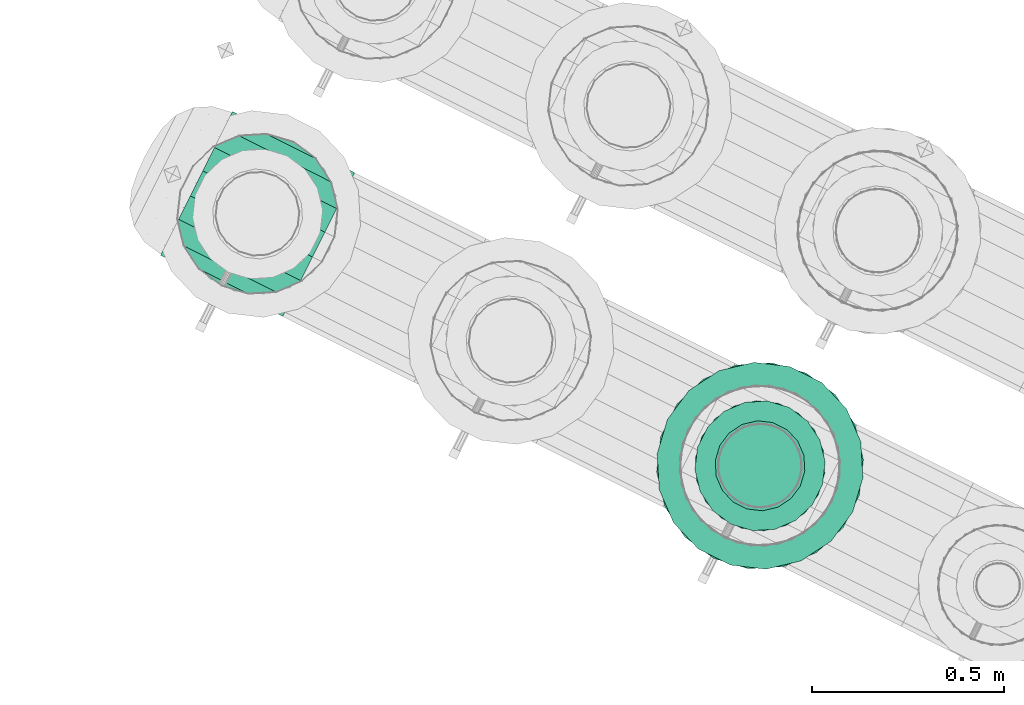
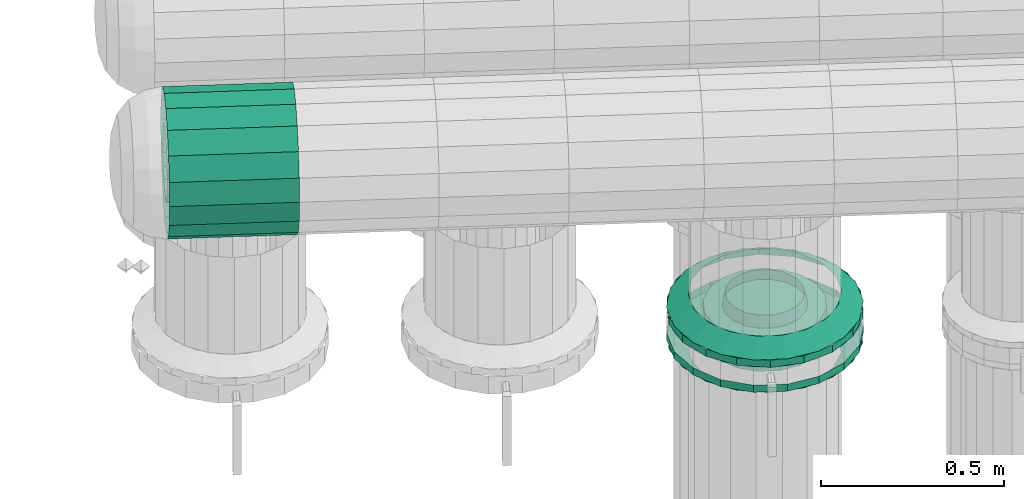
# One storey, part 86 of 152: 3 flow fittings.
"""IFC2X3 building model written with IfcOpenShell, lengths in metres."""

from ifc_helpers import new_model, si_unit, derived_unit, direction, frame, origin, place, context, subcontext, project, spatial, face_set, surface_model, source, transform, mapped, material, type_object, type_shapes, element, save


model = new_model("IFC2X3")

# Units and contexts
model_context = context("Model", 3, precision=5.2338327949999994e-05, world=origin(), true_north=direction((0.0, 1.0)))
body_context = subcontext(model_context, "Body", "Model", "MODEL_VIEW")
ifc_project = project(units=[si_unit("LENGTHUNIT", "METRE"), si_unit("AREAUNIT", "SQUARE_METRE"), si_unit("VOLUMEUNIT", "CUBIC_METRE"), si_unit("MASSUNIT", "GRAM", prefix="KILO"), si_unit("PLANEANGLEUNIT", "RADIAN"), derived_unit("THERMALTRANSMITTANCEUNIT", [(si_unit("MASSUNIT", "GRAM", prefix="KILO"), 1), (si_unit("THERMODYNAMICTEMPERATUREUNIT", "KELVIN"), -1), (si_unit("TIMEUNIT", "SECOND"), -3)])], contexts=[model_context])

# Site, building, storey
site_placement = place(None, frame((0.0, 0.0, 0.0), z_axis=(0.0, 0.0, 1.0), x_axis=(0.8939966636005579, -0.4480736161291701, 0.0)))
site = spatial("IfcSite", under=ifc_project, at=site_placement, Name="Default", CompositionType="ELEMENT")
building_placement = place(site_placement, origin())
building = spatial("IfcBuilding", under=site, at=building_placement, CompositionType="ELEMENT")
storey_placement = place(building_placement, frame((0.0, 0.0, 2.7499999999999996)))
storey = spatial("IfcBuildingStorey", under=building, at=storey_placement, Name="1. Obergeschoss", CompositionType="ELEMENT", Elevation=2.7499999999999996)

# Flow fittings
ifc_material = material(Name="IfcSurfaceStyle #9317")
distribution_element_type_1 = type_object("IfcDistributionElementType", Name="Abzweigstück 226356:Abzweigstück 226356", material=ifc_material)
shared_shape_1 = source(origin(), body_context, "Body", "SurfaceModel", [
    surface_model("IfcFaceBasedSurfaceModel", [(5.300766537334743, 7.217658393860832, 5.553028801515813), (5.300766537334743, 7.224265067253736, 5.59049710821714), (4.9447665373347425, 7.224265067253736, 5.59049710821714), (4.9447665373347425, 7.217658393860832, 5.553028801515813), (5.300766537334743, 7.243288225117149, 5.623446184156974), (4.9447665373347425, 7.243288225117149, 5.623446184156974), (5.300766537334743, 7.272433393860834, 5.6479018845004), (4.9447665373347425, 7.272433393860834, 5.6479018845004), (5.300766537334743, 7.308185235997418, 5.660914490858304), (4.9447665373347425, 7.308185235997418, 5.660914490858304), (5.300766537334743, 7.346231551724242, 5.660914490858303), (4.9447665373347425, 7.346231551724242, 5.660914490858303), (5.300766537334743, 7.381983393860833, 5.647901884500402), (4.9447665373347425, 7.381983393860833, 5.647901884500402), (5.300766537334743, 7.411128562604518, 5.623446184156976), (4.9447665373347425, 7.411128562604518, 5.623446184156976), (5.300766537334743, 7.430151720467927, 5.590497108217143), (4.9447665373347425, 7.430151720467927, 5.590497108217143), (5.300766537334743, 7.436758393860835, 5.553028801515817), (4.9447665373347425, 7.436758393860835, 5.553028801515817), (5.300766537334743, 7.4301517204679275, 5.51556049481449), (4.9447665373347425, 7.4301517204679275, 5.51556049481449), (5.300766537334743, 7.411128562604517, 5.482611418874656), (4.9447665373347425, 7.411128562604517, 5.482611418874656), (5.300766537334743, 7.381983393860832, 5.458155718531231), (4.9447665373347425, 7.381983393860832, 5.458155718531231), (5.300766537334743, 7.3462315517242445, 5.445143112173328), (4.9447665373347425, 7.3462315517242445, 5.445143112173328), (5.300766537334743, 7.308185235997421, 5.445143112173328), (4.9447665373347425, 7.308185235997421, 5.445143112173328), (5.300766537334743, 7.272433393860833, 5.45815571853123), (4.9447665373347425, 7.272433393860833, 5.45815571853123), (5.300766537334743, 7.243288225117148, 5.4826114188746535), (4.9447665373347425, 7.243288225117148, 5.4826114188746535), (5.300766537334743, 7.224265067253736, 5.515560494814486), (4.9447665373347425, 7.224265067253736, 5.515560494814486), (5.300766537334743, 7.117658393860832, 5.553028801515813), (5.300766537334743, 7.130295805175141, 5.624699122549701), (4.9447665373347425, 7.130295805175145, 5.624699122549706), (4.9447665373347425, 7.117658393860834, 5.553028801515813), (5.300766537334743, 7.166683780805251, 5.687724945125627), (4.9447665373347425, 7.166683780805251, 5.687724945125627), (5.300766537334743, 7.222433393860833, 5.734504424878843), (4.9447665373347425, 7.222433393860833, 5.734504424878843), (5.300766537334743, 7.290820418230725, 5.759395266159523), (4.9447665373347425, 7.290820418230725, 5.759395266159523), (5.300766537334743, 7.363596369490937, 5.759395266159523), (4.9447665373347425, 7.363596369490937, 5.759395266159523), (5.300766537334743, 7.43198339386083, 5.734504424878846), (4.9447665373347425, 7.43198339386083, 5.734504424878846), (5.300766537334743, 7.487733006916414, 5.687724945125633), (4.9447665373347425, 7.487733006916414, 5.687724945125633), (5.300766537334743, 7.52412098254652, 5.6246991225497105), (4.9447665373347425, 7.52412098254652, 5.6246991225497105), (5.300766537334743, 7.536758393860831, 5.553028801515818), (4.9447665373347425, 7.536758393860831, 5.553028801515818), (5.300766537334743, 7.5241209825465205, 5.481358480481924), (4.9447665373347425, 7.5241209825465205, 5.481358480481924), (5.300766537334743, 7.487733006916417, 5.418332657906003), (4.9447665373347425, 7.487733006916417, 5.418332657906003), (5.300766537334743, 7.431983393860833, 5.371553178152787), (4.9447665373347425, 7.431983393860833, 5.371553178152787), (5.300766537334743, 7.36359636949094, 5.3466623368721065), (4.9447665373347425, 7.36359636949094, 5.3466623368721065), (5.300766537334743, 7.29082041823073, 5.3466623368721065), (4.9447665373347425, 7.29082041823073, 5.3466623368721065), (5.300766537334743, 7.222433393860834, 5.3715531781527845), (4.9447665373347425, 7.222433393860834, 5.3715531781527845), (5.300766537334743, 7.166683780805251, 5.418332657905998), (4.9447665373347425, 7.166683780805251, 5.418332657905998), (5.300766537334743, 7.130295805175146, 5.481358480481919), (4.9447665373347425, 7.130295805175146, 5.481358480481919), (5.013216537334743, 7.327208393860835, 5.443478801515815), (5.019823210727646, 7.3646767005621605, 5.45008547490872), (5.019823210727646, 7.3646767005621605, 5.375028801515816), (5.013216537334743, 7.327208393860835, 5.375028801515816), (5.038846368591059, 7.397625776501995, 5.469108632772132), (5.038846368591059, 7.397625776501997, 5.375028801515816), (5.067991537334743, 7.422081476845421, 5.498253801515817), (5.067991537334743, 7.422081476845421, 5.375028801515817), (5.103743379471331, 7.435094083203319, 5.534005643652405), (5.103743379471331, 7.435094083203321, 5.375028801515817), (5.141789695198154, 7.435094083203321, 5.534005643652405), (5.141789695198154, 7.435094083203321, 5.375028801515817), (5.177541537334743, 7.422081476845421, 5.498253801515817), (5.177541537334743, 7.422081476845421, 5.375028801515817), (5.206686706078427, 7.397625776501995, 5.469108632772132), (5.206686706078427, 7.397625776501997, 5.375028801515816), (5.22570986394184, 7.3646767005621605, 5.45008547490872), (5.22570986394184, 7.3646767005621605, 5.375028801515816), (5.232316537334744, 7.327208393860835, 5.443478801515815), (5.232316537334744, 7.327208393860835, 5.375028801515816), (5.22570986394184, 7.289740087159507, 5.450085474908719), (5.22570986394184, 7.289740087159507, 5.375028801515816), (5.206686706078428, 7.256791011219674, 5.46910863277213), (5.206686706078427, 7.2567910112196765, 5.375028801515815), (5.177541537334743, 7.232335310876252, 5.498253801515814), (5.177541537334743, 7.232335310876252, 5.375028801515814), (5.141789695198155, 7.219322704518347, 5.534005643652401), (5.141789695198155, 7.219322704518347, 5.375028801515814), (5.103743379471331, 7.219322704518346, 5.534005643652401), (5.103743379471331, 7.219322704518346, 5.375028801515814), (5.067991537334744, 7.232335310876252, 5.498253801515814), (5.067991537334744, 7.232335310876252, 5.375028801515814), (5.038846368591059, 7.256791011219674, 5.46910863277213), (5.038846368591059, 7.256791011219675, 5.375028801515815), (5.019823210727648, 7.289740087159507, 5.450085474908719), (5.019823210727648, 7.289740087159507, 5.375028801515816)], [face_set([[[0, 1, 2, 3]], [[1, 4, 5, 2]], [[4, 6, 7, 5]], [[6, 8, 9, 7]], [[8, 10, 11, 9]], [[10, 12, 13, 11]], [[12, 14, 15, 13]], [[14, 16, 17, 15]], [[16, 18, 19, 17]], [[18, 20, 21, 19]], [[20, 22, 23, 21]], [[22, 24, 25, 23]], [[24, 26, 27, 25]], [[26, 28, 29, 27]], [[28, 30, 31, 29]], [[30, 32, 33, 31]], [[32, 34, 35, 33]], [[34, 0, 3, 35]], [[36, 37, 38, 39]], [[37, 40, 41, 38]], [[40, 42, 43, 41]], [[42, 44, 45, 43]], [[44, 46, 47, 45]], [[46, 48, 49, 47]], [[48, 50, 51, 49]], [[50, 52, 53, 51]], [[52, 54, 55, 53]], [[54, 56, 57, 55]], [[56, 58, 59, 57]], [[58, 60, 61, 59]], [[60, 62, 63, 61]], [[62, 64, 65, 63]], [[64, 66, 67, 65]], [[66, 68, 69, 67]], [[68, 70, 71, 69]], [[70, 36, 39, 71]], [[72, 73, 74, 75]], [[73, 76, 77, 74]], [[76, 78, 79, 77]], [[78, 80, 81, 79]], [[80, 82, 83, 81]], [[82, 84, 85, 83]], [[84, 86, 87, 85]], [[86, 88, 89, 87]], [[88, 90, 91, 89]], [[90, 92, 93, 91]], [[92, 94, 95, 93]], [[94, 96, 97, 95]], [[96, 98, 99, 97]], [[98, 100, 101, 99]], [[100, 102, 103, 101]], [[102, 104, 105, 103]], [[104, 106, 107, 105]], [[106, 72, 75, 107]]])]),
])
type_shapes(distribution_element_type_1, [shared_shape_1])
flow_fitting_1_placement = place(storey_placement, frame((0.0, 0.0, -2.7499999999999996)))
element("IfcFlowFitting", 1, at=flow_fitting_1_placement, inside=storey, type_object=distribution_element_type_1, material=ifc_material, Name="Abzweigstück", ObjectType="Abzweigstück", context=body_context, shape_type="MappedRepresentation", body=[
    mapped(shared_shape_1, transform((0.0, 0.0, 0.0), scale=1.0)),
])
distribution_element_type_2 = type_object("IfcDistributionElementType", Name="Flansch 245416:Flansch 245416", material=ifc_material)
shared_shape_2 = source(origin(), body_context, "Body", "SurfaceModel", [
    surface_model("IfcFaceBasedSurfaceModel", [(6.47826440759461, 7.327208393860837, 5.052622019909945), (6.484871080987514, 7.3646767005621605, 5.052622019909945), (6.477400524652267, 7.3673957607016, 5.0146220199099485), (6.470314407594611, 7.3272083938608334, 5.0146220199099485), (6.5038942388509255, 7.3976257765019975, 5.052622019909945), (6.497804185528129, 7.402735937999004, 5.0146220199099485), (6.533039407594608, 7.422081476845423, 5.052622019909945), (6.5290644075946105, 7.428966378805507, 5.014622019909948), (6.568791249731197, 7.435094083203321, 5.052622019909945), (6.567410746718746, 7.442923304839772, 5.014622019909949), (6.6068375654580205, 7.435094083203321, 5.05262201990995), (6.608218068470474, 7.442923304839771, 5.0146220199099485), (6.642589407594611, 7.422081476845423, 5.052622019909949), (6.64656440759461, 7.428966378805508, 5.014622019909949), (6.6717345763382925, 7.397625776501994, 5.052622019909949), (6.677824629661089, 7.402735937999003, 5.014622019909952), (6.690757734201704, 7.3646767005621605, 5.05262201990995), (6.698228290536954, 7.367395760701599, 5.014622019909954), (6.697364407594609, 7.327208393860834, 5.052622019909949), (6.70531440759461, 7.3272083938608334, 5.014622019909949), (6.690757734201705, 7.289740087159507, 5.0526220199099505), (6.698228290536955, 7.287021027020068, 5.014622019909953), (6.671734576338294, 7.256791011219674, 5.0526220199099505), (6.67782462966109, 7.251680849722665, 5.014622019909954), (6.642589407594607, 7.232335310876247, 5.052622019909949), (6.646564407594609, 7.225450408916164, 5.0146220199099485), (6.60683756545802, 7.219322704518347, 5.052622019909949), (6.608218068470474, 7.211493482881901, 5.014622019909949), (6.568791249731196, 7.219322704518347, 5.052622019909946), (6.567410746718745, 7.211493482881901, 5.014622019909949), (6.533039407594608, 7.232335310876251, 5.052622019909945), (6.529064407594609, 7.225450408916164, 5.0146220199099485), (6.503894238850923, 7.256791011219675, 5.052622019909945), (6.497804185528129, 7.251680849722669, 5.014622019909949), (6.484871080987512, 7.28974008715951, 5.052622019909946), (6.477400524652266, 7.28702102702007, 5.0146220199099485), (6.587814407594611, 7.497208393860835, 5.0146220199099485), (6.645957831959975, 7.4869561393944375, 5.01462201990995), (6.645957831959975, 7.486956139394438, 4.990622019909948), (6.587814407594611, 7.497208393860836, 4.990622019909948), (6.697088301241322, 7.45743594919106, 5.01462201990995), (6.6970883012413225, 7.45743594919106, 4.990622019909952), (6.735038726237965, 7.412208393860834, 5.014622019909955), (6.735038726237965, 7.4122083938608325, 4.990622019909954), (6.755231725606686, 7.356728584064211, 5.014622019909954), (6.755231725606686, 7.356728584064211, 4.990622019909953), (6.755231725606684, 7.297688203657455, 5.014622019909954), (6.755231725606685, 7.297688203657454, 4.990622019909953), (6.735038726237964, 7.242208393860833, 5.014622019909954), (6.735038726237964, 7.242208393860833, 4.990622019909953), (6.697088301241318, 7.196980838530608, 5.014622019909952), (6.697088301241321, 7.196980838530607, 4.990622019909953), (6.645957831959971, 7.1674606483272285, 5.01462201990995), (6.645957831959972, 7.1674606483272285, 4.990622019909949), (6.5878144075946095, 7.157208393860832, 5.0146220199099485), (6.5878144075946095, 7.157208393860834, 4.990622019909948), (6.529670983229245, 7.1674606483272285, 5.0146220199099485), (6.529670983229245, 7.1674606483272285, 4.990622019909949), (6.478540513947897, 7.19698083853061, 5.0146220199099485), (6.478540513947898, 7.196980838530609, 4.9906220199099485), (6.4405900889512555, 7.242208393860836, 5.0146220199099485), (6.4405900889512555, 7.242208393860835, 4.990622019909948), (6.420397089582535, 7.297688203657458, 5.014622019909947), (6.420397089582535, 7.297688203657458, 4.990622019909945), (6.420397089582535, 7.356728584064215, 5.014622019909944), (6.420397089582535, 7.356728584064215, 4.990622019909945), (6.440590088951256, 7.412208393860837, 5.0146220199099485), (6.4405900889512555, 7.412208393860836, 4.990622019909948), (6.478540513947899, 7.457435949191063, 5.0146220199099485), (6.478540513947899, 7.457435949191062, 4.990622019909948), (6.529670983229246, 7.486956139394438, 5.0146220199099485), (6.529670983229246, 7.486956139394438, 4.990622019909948), (6.5878144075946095, 7.327208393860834, 5.014622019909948), (6.3782644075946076, 7.327208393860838, 5.052622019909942), (6.390901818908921, 7.398878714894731, 5.052622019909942), (6.334097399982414, 7.419553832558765, 5.014622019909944), (6.31781440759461, 7.327208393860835, 5.014622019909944), (6.427289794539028, 7.461904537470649, 5.052622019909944), (6.380982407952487, 7.5007610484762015, 5.014622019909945), (6.4830394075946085, 7.508684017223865, 5.052622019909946), (6.452814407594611, 7.5610352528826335, 5.014622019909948), (6.551426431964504, 7.533574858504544, 5.052622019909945), (6.540929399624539, 7.59310648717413, 5.0146220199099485), (6.6242023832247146, 7.53357485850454, 5.0526220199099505), (6.634699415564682, 7.593106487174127, 5.01462201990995), (6.6925894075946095, 7.508684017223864, 5.052622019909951), (6.722814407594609, 7.561035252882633, 5.01462201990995), (6.74833902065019, 7.4619045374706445, 5.052622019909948), (6.7946464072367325, 7.500761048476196, 5.014622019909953), (6.784726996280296, 7.398878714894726, 5.052622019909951), (6.841531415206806, 7.419553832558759, 5.014622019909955), (6.797364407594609, 7.327208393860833, 5.0526220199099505), (6.85781440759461, 7.32720839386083, 5.014622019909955), (6.784726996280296, 7.255538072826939, 5.0526220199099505), (6.841531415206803, 7.2348629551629, 5.014622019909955), (6.748339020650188, 7.192512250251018, 5.052622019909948), (6.794646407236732, 7.1536557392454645, 5.014622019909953), (6.692589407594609, 7.145732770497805, 5.052622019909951), (6.722814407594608, 7.093381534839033, 5.014622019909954), (6.624202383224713, 7.120841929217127, 5.0526220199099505), (6.634699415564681, 7.061310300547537, 5.014622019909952), (6.551426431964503, 7.120841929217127, 5.052622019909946), (6.540929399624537, 7.061310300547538, 5.0146220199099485), (6.483039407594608, 7.145732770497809, 5.052622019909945), (6.452814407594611, 7.093381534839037, 5.0146220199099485), (6.427289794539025, 7.192512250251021, 5.052622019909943), (6.3809824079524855, 7.15365573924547, 5.014622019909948), (6.3909018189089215, 7.255538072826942, 5.052622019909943), (6.334097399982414, 7.234862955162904, 5.014622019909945), (6.5878144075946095, 7.597208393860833, 5.0146220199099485), (6.680159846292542, 7.580925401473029, 5.01462201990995), (6.680159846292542, 7.580925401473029, 4.990622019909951), (6.5878144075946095, 7.597208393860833, 4.990622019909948), (6.761367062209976, 7.534040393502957, 5.014622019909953), (6.761367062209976, 7.534040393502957, 4.990622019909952), (6.821641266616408, 7.462208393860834, 5.014622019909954), (6.821641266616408, 7.462208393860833, 4.990622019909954), (6.853712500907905, 7.374093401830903, 5.014622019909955), (6.853712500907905, 7.374093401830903, 4.990622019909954), (6.853712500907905, 7.2803233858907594, 5.014622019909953), (6.853712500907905, 7.2803233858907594, 4.990622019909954), (6.821641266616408, 7.192208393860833, 5.014622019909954), (6.821641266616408, 7.192208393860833, 4.990622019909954), (6.761367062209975, 7.120376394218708, 5.014622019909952), (6.761367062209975, 7.120376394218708, 4.990622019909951), (6.680159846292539, 7.07349138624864, 5.014622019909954), (6.680159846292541, 7.073491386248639, 4.990622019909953), (6.587814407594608, 7.057208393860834, 5.014622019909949), (6.587814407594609, 7.057208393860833, 4.9906220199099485), (6.495468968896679, 7.073491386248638, 5.014622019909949), (6.495468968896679, 7.073491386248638, 4.9906220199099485), (6.414261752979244, 7.120376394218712, 5.014622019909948), (6.414261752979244, 7.120376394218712, 4.990622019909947), (6.353987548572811, 7.192208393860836, 5.014622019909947), (6.353987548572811, 7.192208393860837, 4.990622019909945), (6.321916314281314, 7.280323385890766, 5.014622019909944), (6.321916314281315, 7.280323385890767, 4.990622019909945), (6.3219163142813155, 7.374093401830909, 5.014622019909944), (6.321916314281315, 7.374093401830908, 4.990622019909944), (6.353987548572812, 7.462208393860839, 5.014622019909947), (6.353987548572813, 7.462208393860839, 4.990622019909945), (6.414261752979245, 7.53404039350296, 5.014622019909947), (6.414261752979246, 7.53404039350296, 4.990622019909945), (6.49546896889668, 7.580925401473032, 5.014622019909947), (6.49546896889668, 7.580925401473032, 4.990622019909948)], [face_set([[[0, 1, 2, 3]], [[1, 4, 5, 2]], [[4, 6, 7, 5]], [[6, 8, 9, 7]], [[8, 10, 11, 9]], [[10, 12, 13, 11]], [[12, 14, 15, 13]], [[14, 16, 17, 15]], [[16, 18, 19, 17]], [[18, 20, 21, 19]], [[20, 22, 23, 21]], [[22, 24, 25, 23]], [[24, 26, 27, 25]], [[26, 28, 29, 27]], [[28, 30, 31, 29]], [[30, 32, 33, 31]], [[32, 34, 35, 33]], [[34, 0, 3, 35]], [[36, 37, 38, 39]], [[37, 40, 41, 38]], [[40, 42, 43, 41]], [[42, 44, 45, 43]], [[44, 46, 47, 45]], [[46, 48, 49, 47]], [[48, 50, 51, 49]], [[50, 52, 53, 51]], [[52, 54, 55, 53]], [[54, 56, 57, 55]], [[56, 58, 59, 57]], [[58, 60, 61, 59]], [[60, 62, 63, 61]], [[62, 64, 65, 63]], [[64, 66, 67, 65]], [[66, 68, 69, 67]], [[68, 70, 71, 69]], [[70, 36, 39, 71]], [[72, 37, 36]], [[72, 40, 37]], [[72, 42, 40]], [[72, 44, 42]], [[72, 46, 44]], [[72, 48, 46]], [[72, 50, 48]], [[72, 52, 50]], [[72, 54, 52]], [[72, 56, 54]], [[72, 58, 56]], [[72, 60, 58]], [[72, 62, 60]], [[72, 64, 62]], [[72, 66, 64]], [[72, 68, 66]], [[72, 70, 68]], [[72, 36, 70]], [[73, 74, 75, 76]], [[74, 77, 78, 75]], [[77, 79, 80, 78]], [[79, 81, 82, 80]], [[81, 83, 84, 82]], [[83, 85, 86, 84]], [[85, 87, 88, 86]], [[87, 89, 90, 88]], [[89, 91, 92, 90]], [[91, 93, 94, 92]], [[93, 95, 96, 94]], [[95, 97, 98, 96]], [[97, 99, 100, 98]], [[99, 101, 102, 100]], [[101, 103, 104, 102]], [[103, 105, 106, 104]], [[105, 107, 108, 106]], [[107, 73, 76, 108]], [[109, 110, 111, 112]], [[110, 113, 114, 111]], [[113, 115, 116, 114]], [[115, 117, 118, 116]], [[117, 119, 120, 118]], [[119, 121, 122, 120]], [[121, 123, 124, 122]], [[123, 125, 126, 124]], [[125, 127, 128, 126]], [[127, 129, 130, 128]], [[129, 131, 132, 130]], [[131, 133, 134, 132]], [[133, 135, 136, 134]], [[135, 137, 138, 136]], [[137, 139, 140, 138]], [[139, 141, 142, 140]], [[141, 143, 144, 142]], [[143, 109, 112, 144]]])]),
])
type_shapes(distribution_element_type_2, [shared_shape_2])
flow_fitting_2_placement = place(storey_placement, frame((0.0, 0.0, -2.7499999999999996)))
element("IfcFlowFitting", 2, at=flow_fitting_2_placement, inside=storey, type_object=distribution_element_type_2, material=ifc_material, Name="Flansch", ObjectType="Flansch", context=body_context, shape_type="MappedRepresentation", body=[
    mapped(shared_shape_2, transform((0.0, 0.0, 0.0), scale=1.0)),
])
distribution_element_type_3 = type_object("IfcDistributionElementType", Name="Flansch 245581:Flansch 245581", material=ifc_material)
shared_shape_3 = source(origin(), body_context, "Body", "SurfaceModel", [
    surface_model("IfcFaceBasedSurfaceModel", [(6.75781440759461, 7.3272083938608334, 4.930622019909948), (6.747562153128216, 7.269064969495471, 4.930622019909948), (6.747562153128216, 7.269064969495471, 4.906622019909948), (6.75781440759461, 7.3272083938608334, 4.906622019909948), (6.718041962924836, 7.217934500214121, 4.930622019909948), (6.718041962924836, 7.217934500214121, 4.906622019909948), (6.6728144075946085, 7.179984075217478, 4.930622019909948), (6.6728144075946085, 7.179984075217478, 4.906622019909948), (6.61733459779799, 7.159791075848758, 4.930622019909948), (6.61733459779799, 7.159791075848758, 4.906622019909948), (6.558294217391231, 7.1597910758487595, 4.930622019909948), (6.558294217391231, 7.1597910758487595, 4.906622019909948), (6.502814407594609, 7.179984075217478, 4.930622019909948), (6.502814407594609, 7.179984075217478, 4.906622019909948), (6.4575868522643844, 7.21793450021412, 4.930622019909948), (6.4575868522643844, 7.21793450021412, 4.906622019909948), (6.4280666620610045, 7.26906496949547, 4.930622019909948), (6.4280666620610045, 7.26906496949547, 4.906622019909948), (6.41781440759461, 7.3272083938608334, 4.930622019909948), (6.41781440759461, 7.3272083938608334, 4.906622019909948), (6.428066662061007, 7.385351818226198, 4.930622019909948), (6.428066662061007, 7.385351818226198, 4.906622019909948), (6.4575868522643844, 7.436482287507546, 4.930622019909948), (6.4575868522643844, 7.436482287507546, 4.906622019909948), (6.502814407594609, 7.474432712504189, 4.930622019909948), (6.502814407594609, 7.474432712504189, 4.906622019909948), (6.558294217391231, 7.494625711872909, 4.930622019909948), (6.558294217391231, 7.494625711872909, 4.906622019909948), (6.61733459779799, 7.494625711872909, 4.930622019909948), (6.61733459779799, 7.494625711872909, 4.906622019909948), (6.6728144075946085, 7.474432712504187, 4.930622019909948), (6.6728144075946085, 7.474432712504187, 4.906622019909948), (6.718041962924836, 7.4364822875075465, 4.930622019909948), (6.718041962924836, 7.4364822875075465, 4.906622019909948), (6.747562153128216, 7.385351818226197, 4.930622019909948), (6.747562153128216, 7.385351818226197, 4.906622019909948), (6.5878144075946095, 7.3272083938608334, 4.906622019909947), (6.587814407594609, 7.444708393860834, 4.906622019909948), (6.628001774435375, 7.437622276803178, 4.906622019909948), (6.625282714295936, 7.430151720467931, 4.868622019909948), (6.587814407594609, 7.436758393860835, 4.868622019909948), (6.66334195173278, 7.417218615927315, 4.906622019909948), (6.658231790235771, 7.411128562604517, 4.868622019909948), (6.6895723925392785, 7.385958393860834, 4.906622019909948), (6.682687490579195, 7.381983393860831, 4.868622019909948), (6.703529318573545, 7.3476120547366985, 4.906622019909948), (6.695700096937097, 7.346231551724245, 4.868622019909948), (6.703529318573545, 7.306804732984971, 4.906622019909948), (6.695700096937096, 7.308185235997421, 4.868622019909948), (6.6895723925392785, 7.268458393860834, 4.906622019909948), (6.682687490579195, 7.272433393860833, 4.868622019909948), (6.663341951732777, 7.237198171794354, 4.906622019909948), (6.658231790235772, 7.243288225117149, 4.868622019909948), (6.6280017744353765, 7.216794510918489, 4.906622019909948), (6.625282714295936, 7.224265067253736, 4.868622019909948), (6.5878144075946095, 7.2097083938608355, 4.906622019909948), (6.5878144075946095, 7.217658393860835, 4.868622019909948), (6.547627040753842, 7.2167945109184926, 4.906622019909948), (6.550346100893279, 7.224265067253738, 4.868622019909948), (6.512286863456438, 7.237198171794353, 4.906622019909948), (6.517397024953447, 7.243288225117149, 4.868622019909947), (6.486056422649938, 7.268458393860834, 4.906622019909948), (6.492941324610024, 7.272433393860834, 4.868622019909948), (6.472099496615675, 7.306804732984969, 4.906622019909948), (6.479928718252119, 7.30818523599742, 4.868622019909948), (6.472099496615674, 7.347612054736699, 4.906622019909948), (6.479928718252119, 7.346231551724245, 4.868622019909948), (6.486056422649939, 7.385958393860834, 4.906622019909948), (6.492941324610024, 7.381983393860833, 4.868622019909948), (6.51228686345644, 7.417218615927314, 4.906622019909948), (6.517397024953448, 7.411128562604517, 4.868622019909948), (6.5476270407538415, 7.437622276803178, 4.906622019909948), (6.550346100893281, 7.43015172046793, 4.868622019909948), (6.857814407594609, 7.3272083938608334, 4.930622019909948), (6.841531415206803, 7.234862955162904, 4.930622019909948), (6.841531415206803, 7.234862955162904, 4.906622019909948), (6.857814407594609, 7.3272083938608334, 4.906622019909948), (6.794646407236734, 7.15365573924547, 4.930622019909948), (6.794646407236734, 7.15365573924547, 4.906622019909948), (6.722814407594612, 7.093381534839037, 4.930622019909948), (6.722814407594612, 7.093381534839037, 4.906622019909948), (6.634699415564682, 7.0613103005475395, 4.930622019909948), (6.634699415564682, 7.0613103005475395, 4.906622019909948), (6.540929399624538, 7.061310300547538, 4.930622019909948), (6.540929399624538, 7.061310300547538, 4.906622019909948), (6.452814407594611, 7.093381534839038, 4.930622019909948), (6.452814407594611, 7.093381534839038, 4.906622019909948), (6.380982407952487, 7.153655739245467, 4.930622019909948), (6.380982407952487, 7.153655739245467, 4.906622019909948), (6.334097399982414, 7.234862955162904, 4.930622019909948), (6.334097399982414, 7.234862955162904, 4.906622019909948), (6.31781440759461, 7.3272083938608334, 4.930622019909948), (6.31781440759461, 7.3272083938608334, 4.906622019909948), (6.334097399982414, 7.419553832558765, 4.930622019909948), (6.334097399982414, 7.419553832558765, 4.906622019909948), (6.380982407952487, 7.500761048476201, 4.930622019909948), (6.380982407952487, 7.500761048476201, 4.906622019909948), (6.452814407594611, 7.5610352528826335, 4.930622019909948), (6.452814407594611, 7.5610352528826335, 4.906622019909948), (6.540929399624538, 7.59310648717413, 4.930622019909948), (6.540929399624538, 7.59310648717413, 4.906622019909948), (6.634699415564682, 7.59310648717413, 4.930622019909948), (6.634699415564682, 7.59310648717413, 4.906622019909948), (6.72281440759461, 7.5610352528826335, 4.930622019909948), (6.72281440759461, 7.5610352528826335, 4.906622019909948), (6.794646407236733, 7.5007610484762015, 4.930622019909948), (6.794646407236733, 7.5007610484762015, 4.906622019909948), (6.841531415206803, 7.419553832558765, 4.930622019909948), (6.841531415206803, 7.419553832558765, 4.906622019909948), (6.587814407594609, 7.597208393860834, 4.906622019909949), (6.680159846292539, 7.580925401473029, 4.906622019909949), (6.6594847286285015, 7.5241209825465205, 4.868622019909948), (6.587814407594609, 7.536758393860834, 4.868622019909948), (6.761367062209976, 7.534040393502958, 4.906622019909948), (6.722510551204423, 7.487733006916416, 4.868622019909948), (6.821641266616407, 7.462208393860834, 4.906622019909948), (6.769290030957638, 7.4319833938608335, 4.868622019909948), (6.853712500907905, 7.374093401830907, 4.906622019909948), (6.794180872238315, 7.3635963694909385, 4.868622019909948), (6.853712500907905, 7.280323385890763, 4.906622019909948), (6.794180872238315, 7.290820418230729, 4.868622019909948), (6.821641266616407, 7.192208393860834, 4.906622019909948), (6.769290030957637, 7.222433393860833, 4.868622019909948), (6.761367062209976, 7.1203763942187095, 4.906622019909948), (6.722510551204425, 7.166683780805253, 4.868622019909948), (6.680159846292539, 7.073491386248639, 4.906622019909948), (6.659484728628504, 7.130295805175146, 4.868622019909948), (6.5878144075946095, 7.057208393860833, 4.906622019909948), (6.5878144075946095, 7.117658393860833, 4.868622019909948), (6.495468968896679, 7.073491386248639, 4.906622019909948), (6.5161440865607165, 7.130295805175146, 4.868622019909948), (6.414261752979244, 7.120376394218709, 4.906622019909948), (6.4531182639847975, 7.166683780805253, 4.868622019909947), (6.353987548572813, 7.1922083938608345, 4.906622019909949), (6.406338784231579, 7.222433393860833, 4.8686220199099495), (6.321916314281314, 7.280323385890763, 4.906622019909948), (6.381447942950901, 7.290820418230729, 4.868622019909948), (6.321916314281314, 7.374093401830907, 4.906622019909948), (6.381447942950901, 7.3635963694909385, 4.868622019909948), (6.353987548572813, 7.462208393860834, 4.906622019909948), (6.406338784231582, 7.4319833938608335, 4.868622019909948), (6.414261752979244, 7.534040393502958, 4.906622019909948), (6.453118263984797, 7.487733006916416, 4.868622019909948), (6.495468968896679, 7.580925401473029, 4.906622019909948), (6.516144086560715, 7.5241209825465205, 4.868622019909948)], [face_set([[[0, 1, 2, 3]], [[1, 4, 5, 2]], [[4, 6, 7, 5]], [[6, 8, 9, 7]], [[8, 10, 11, 9]], [[10, 12, 13, 11]], [[12, 14, 15, 13]], [[14, 16, 17, 15]], [[16, 18, 19, 17]], [[18, 20, 21, 19]], [[20, 22, 23, 21]], [[22, 24, 25, 23]], [[24, 26, 27, 25]], [[26, 28, 29, 27]], [[28, 30, 31, 29]], [[30, 32, 33, 31]], [[32, 34, 35, 33]], [[34, 0, 3, 35]], [[36, 35, 3]], [[36, 33, 35]], [[36, 31, 33]], [[36, 29, 31]], [[36, 27, 29]], [[36, 25, 27]], [[36, 23, 25]], [[36, 21, 23]], [[36, 19, 21]], [[36, 17, 19]], [[36, 15, 17]], [[36, 13, 15]], [[36, 11, 13]], [[36, 9, 11]], [[36, 7, 9]], [[36, 5, 7]], [[36, 2, 5]], [[36, 3, 2]], [[37, 38, 39, 40]], [[38, 41, 42, 39]], [[41, 43, 44, 42]], [[43, 45, 46, 44]], [[45, 47, 48, 46]], [[47, 49, 50, 48]], [[49, 51, 52, 50]], [[51, 53, 54, 52]], [[53, 55, 56, 54]], [[55, 57, 58, 56]], [[57, 59, 60, 58]], [[59, 61, 62, 60]], [[61, 63, 64, 62]], [[63, 65, 66, 64]], [[65, 67, 68, 66]], [[67, 69, 70, 68]], [[69, 71, 72, 70]], [[71, 37, 40, 72]], [[73, 74, 75, 76]], [[74, 77, 78, 75]], [[77, 79, 80, 78]], [[79, 81, 82, 80]], [[81, 83, 84, 82]], [[83, 85, 86, 84]], [[85, 87, 88, 86]], [[87, 89, 90, 88]], [[89, 91, 92, 90]], [[91, 93, 94, 92]], [[93, 95, 96, 94]], [[95, 97, 98, 96]], [[97, 99, 100, 98]], [[99, 101, 102, 100]], [[101, 103, 104, 102]], [[103, 105, 106, 104]], [[105, 107, 108, 106]], [[107, 73, 76, 108]], [[109, 110, 111, 112]], [[110, 113, 114, 111]], [[113, 115, 116, 114]], [[115, 117, 118, 116]], [[117, 119, 120, 118]], [[119, 121, 122, 120]], [[121, 123, 124, 122]], [[123, 125, 126, 124]], [[125, 127, 128, 126]], [[127, 129, 130, 128]], [[129, 131, 132, 130]], [[131, 133, 134, 132]], [[133, 135, 136, 134]], [[135, 137, 138, 136]], [[137, 139, 140, 138]], [[139, 141, 142, 140]], [[141, 143, 144, 142]], [[143, 109, 112, 144]]])]),
])
type_shapes(distribution_element_type_3, [shared_shape_3])
flow_fitting_3_placement = place(storey_placement, frame((0.0, 0.0, -2.7499999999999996)))
element("IfcFlowFitting", 3, at=flow_fitting_3_placement, inside=storey, type_object=distribution_element_type_3, material=ifc_material, Name="Flansch", ObjectType="Flansch", context=body_context, shape_type="MappedRepresentation", body=[
    mapped(shared_shape_3, transform((0.0, 0.0, 0.0), scale=1.0)),
])

save(model, "model.ifc")
